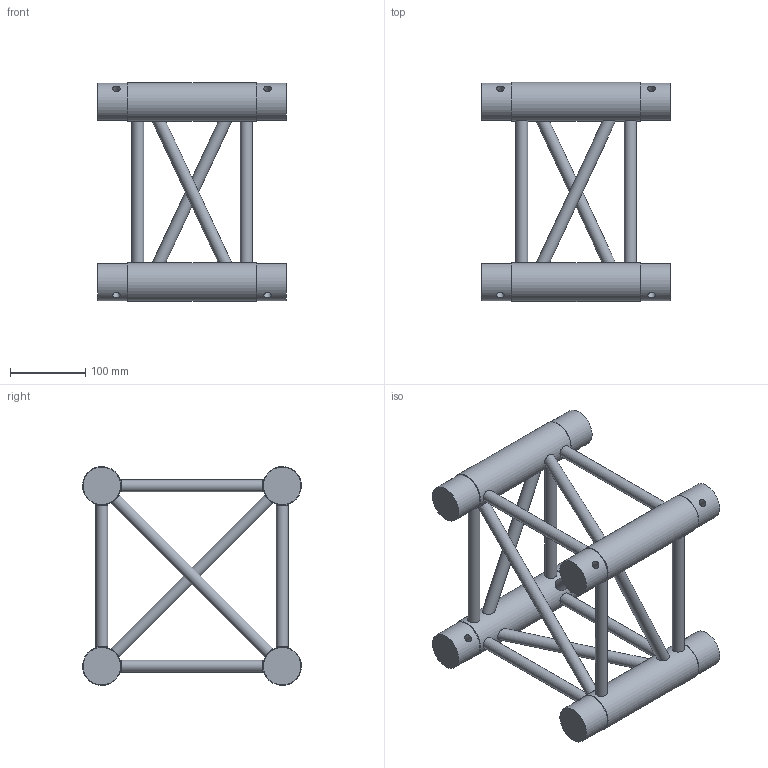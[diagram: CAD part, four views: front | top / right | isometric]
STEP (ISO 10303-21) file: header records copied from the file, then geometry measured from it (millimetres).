
FILE_DESCRIPTION(/* description */ (''),/* implementation_level */ '2;1');
FILE_NAME(/* name */ 'M:\Symbolen\STP\30-er truss\111080107.stp',/* time_stamp */ '2015-01-29T10:24:53+01:00',/* author */ ('Stephan'),/* organization */ (''),/* preprocessor_version */ 'ST-DEVELOPER v15.6',/* originating_system */ 'Autodesk Inventor 2015',/* authorisation */ '');
FILE_SCHEMA (('AUTOMOTIVE_DESIGN { 1 0 10303 214 3 1 1 }'));
Length unit declared in the file: millimetre
Products named in the file (1): 160023617
Bounding box: 250 x 289.98 x 289.98 mm (x, y, z)
Volume: 2493545.2 mm3; surface area: 362028.7 mm2
Topology: 18 solids, 18 shells, 124 faces, 244 edges, 152 vertices
Faces by surface type: plane 72, cylinder 44, cone 8
Full cylindrical faces by diameter (mm): 10 x8, 12 x2, 16 x14, 49.5 x8, 51 x4
Entity records: 3701 total; most frequent: CARTESIAN_POINT 1085, DIRECTION 466, ORIENTED_EDGE 416, EDGE_LOOP 216, AXIS2_PLACEMENT_3D 213, EDGE_CURVE 184, VERTEX_POINT 144, STYLED_ITEM 117
